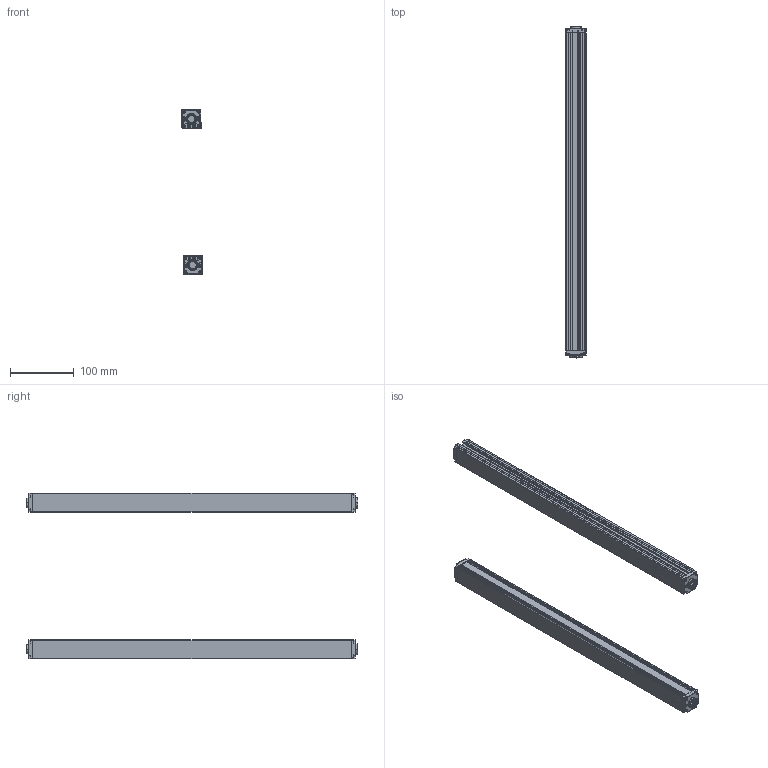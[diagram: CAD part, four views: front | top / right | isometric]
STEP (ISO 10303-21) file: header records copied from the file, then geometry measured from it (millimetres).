
FILE_DESCRIPTION (( 'STEP AP203' ), '1' );
FILE_NAME ('ZDA4810-500.STEP', '2022-08-30T03:50:46', ( 'Windows 蚚誧' ), ( 'Organization' ), 'SwSTEP 2.0', 'SolidWorks 2020', '' );
FILE_SCHEMA (( 'CONFIG_CONTROL_DESIGN' ));
Length unit declared in the file: millimetre
Products named in the file (5): 錨璃10; ZDA4810-500; 錨璃1; 錨璃8; 錨璃8 - 萵掛 (2)
Assembly tree (8 placements, depth 2):
  ZDA4810-500
    錨璃1  x2
    錨璃8  x2
    錨璃8 - 萵掛 (2)  x2
    錨璃10  x2
Bounding box: 32.36 x 521.4 x 260.35 mm (x, y, z)
Volume: 323184 mm3; surface area: 343504.1 mm2
Topology: 8 solids, 8 shells, 1032 faces, 2690 edges, 1668 vertices
Faces by surface type: plane 464, cylinder 310, cone 120, bspline 58, torus 48, sphere 32
Entity records: 17901 total; most frequent: CARTESIAN_POINT 4731, ORIENTED_EDGE 2666, DIRECTION 2616, EDGE_CURVE 1333, AXIS2_PLACEMENT_3D 894, VERTEX_POINT 834, LINE 828, VECTOR 828
